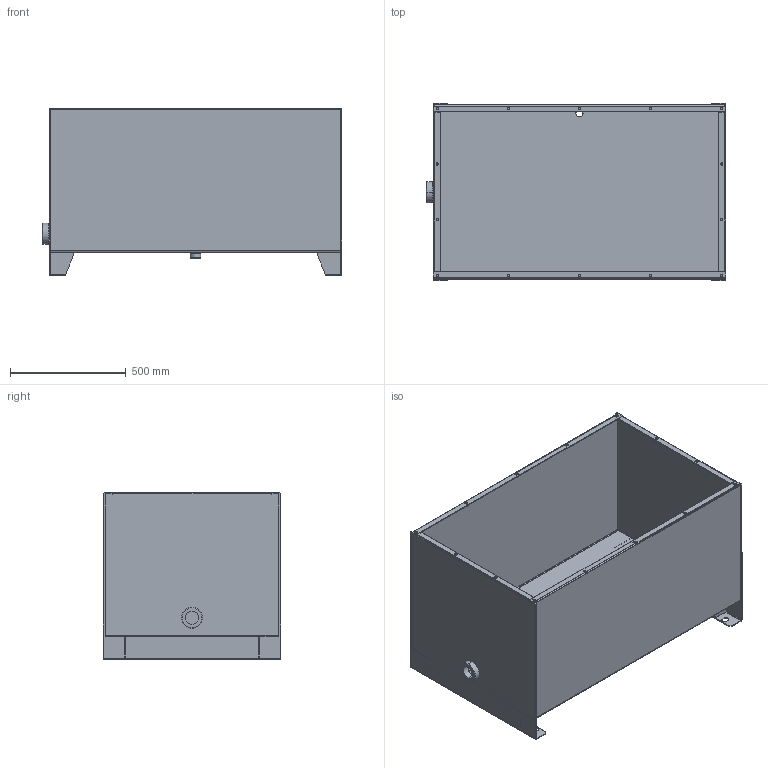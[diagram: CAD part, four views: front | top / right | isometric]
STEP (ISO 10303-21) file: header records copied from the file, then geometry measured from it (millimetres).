
FILE_DESCRIPTION (( 'STEP AP203' ), '1' );
FILE_NAME ('CFP400.STEP', '2017-04-13T07:51:22', ( '' ), ( '' ), 'SwSTEP 2.0', 'SolidWorks 2016', '' );
FILE_SCHEMA (( 'CONFIG_CONTROL_DESIGN' ));
Length unit declared in the file: millimetre
Products named in the file (1): CFP400
Bounding box: 1290 x 765 x 720 mm (x, y, z)
Volume: 15334396.3 mm3; surface area: 7658726.6 mm2
Topology: 19 solids, 19 shells, 650 faces, 1456 edges, 844 vertices
Faces by surface type: plane 486, cylinder 100, cone 64
Entity records: 17609 total; most frequent: DIRECTION 3022, CARTESIAN_POINT 2951, ORIENTED_EDGE 2912, EDGE_CURVE 1456, VECTOR 1192, LINE 1192, AXIS2_PLACEMENT_3D 915, VERTEX_POINT 844
